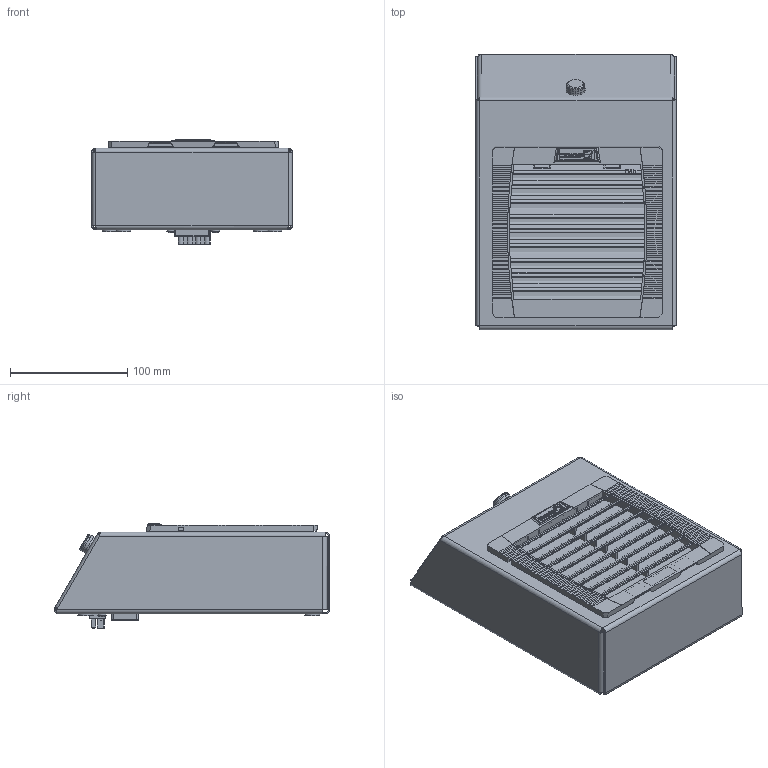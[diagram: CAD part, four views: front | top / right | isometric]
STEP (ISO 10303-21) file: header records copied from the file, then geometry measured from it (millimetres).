
FILE_DESCRIPTION (( 'STEP AP203' ), '1' );
FILE_NAME ('DPF22000.STEP', '2020-09-02T15:11:58', ( '' ), ( '' ), 'SwSTEP 2.0', 'SolidWorks 2018', '' );
FILE_SCHEMA (( 'CONFIG_CONTROL_DESIGN' ));
Products named in the file (1): DPF22000
Bounding box: 171 x 234.65 x 89 mm (x, y, z)
Volume: 626758.6 mm3; surface area: 531734.3 mm2
Topology: 31 solids, 33 shells, 7884 faces, 21547 edges, 14038 vertices
Faces by surface type: plane 4897, bspline 1572, cylinder 1007, cone 198, torus 194, sphere 16
Entity records: 335600 total; most frequent: CARTESIAN_POINT 147786, ORIENTED_EDGE 42926, DIRECTION 32134, EDGE_CURVE 21463, VECTOR 14448, LINE 14448, VERTEX_POINT 14038, AXIS2_PLACEMENT_3D 8843
